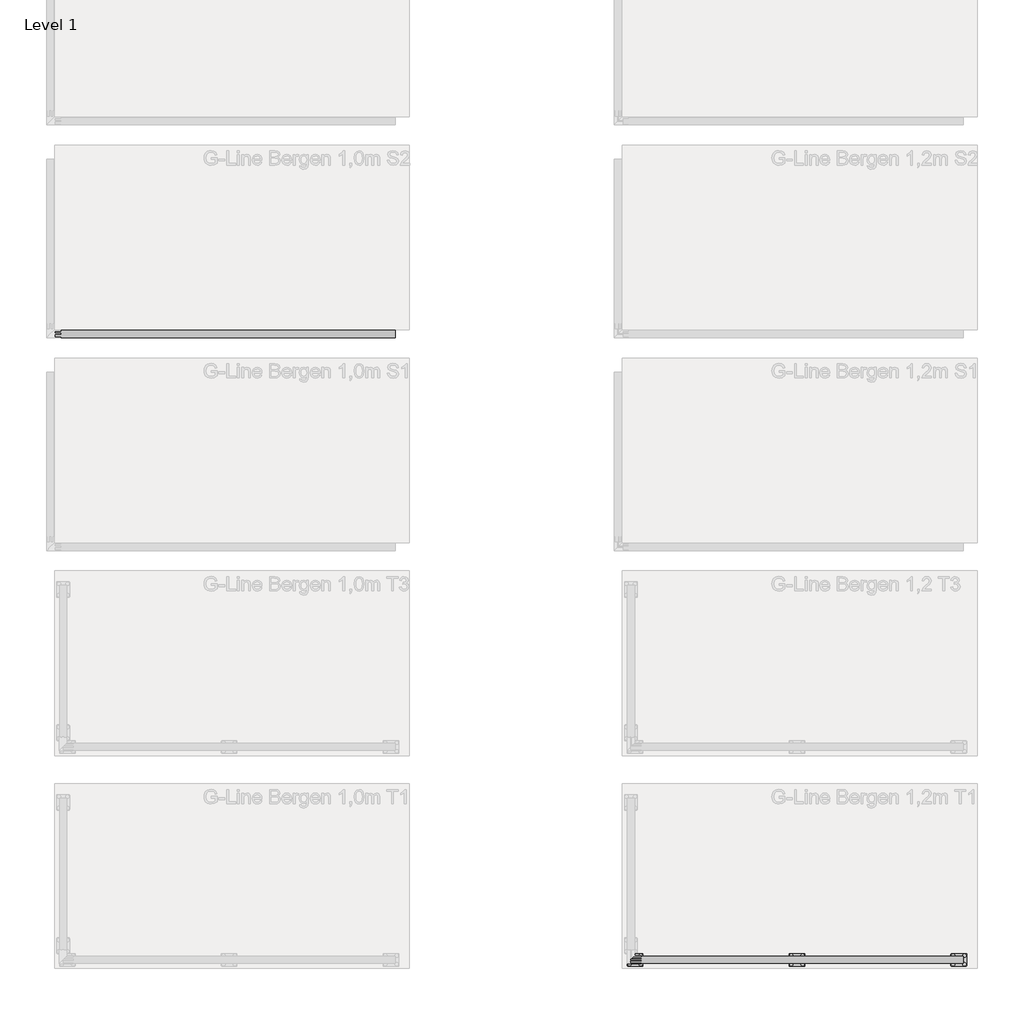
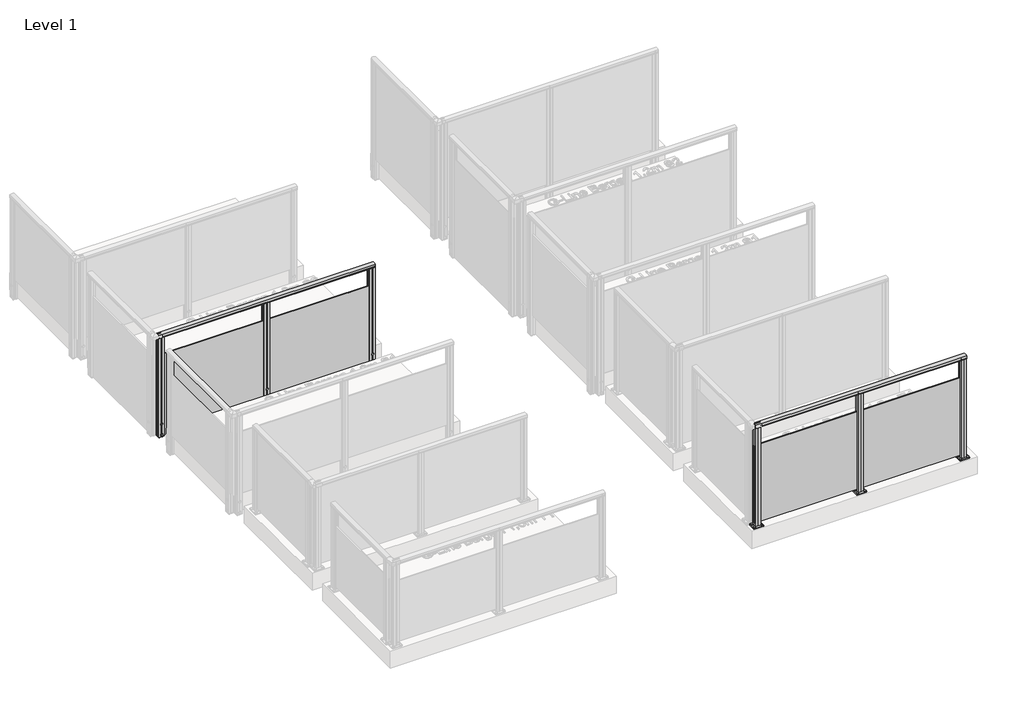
# One storey, part 19 of 66: 2 railings.
"""IFC4 building model written with IfcOpenShell, lengths in millimetres."""

from ifc_helpers import new_model, si_unit, point, frame, frame_2d, origin, origin_with_axes, place, context, project, spatial, polyline, circle_curve, trimmed, segment, composite_curve, outline, extrude, element, save

model = new_model("IFC4")

# Units and contexts
model_context = context("Model", 3, world=origin())
ifc_project = project(units=[si_unit("LENGTHUNIT", "METRE", prefix="MILLI")], contexts=[model_context])

# Site, building, storey
site = spatial("IfcSite", under=ifc_project)
building = spatial("IfcBuilding", under=site)
storey = spatial("IfcBuildingStorey", under=building, Name="Level 1", Elevation=0.0)

# Railings
placement = place(None, origin())
element("IfcRailing", 1, ObjectType="G-Line Bergen 1,0m S2", at=placement, inside=storey, context=model_context, shape_type="SweptSolid", body=[
    extrude(outline(composite_curve([segment(polyline([(13.4211819, 994.1390059), (13.4211819, 967.1990555), (12.8063989, 966.5842725), (13.4211819, 965.9694895), (13.4211819, 957.2498847), (11.6613734, 957.2498847), (11.6613734, 980.4998829), (-35.3336728, 980.4998829), (-35.3336728, 957.2498847), (-37.1386257, 957.2498847), (-37.1386257, 965.8194895), (-36.5165446, 966.4415706), (-37.0984763, 967.0235023), (-37.0984763, 994.1342258)]), True, "CONTINUOUS"), segment(trimmed(circle_curve(frame_2d((-11.8337784, 942.6785502)), 57.3235687), [point((-37.0984763, 994.1342258))], [point((13.4211819, 994.1390059))], False, "CARTESIAN"), True, "CONTINUOUS")], self_intersect=False)), frame((4501.5263105, 0.0, 0.0), z_axis=(1.0, 0.0, 0.0), x_axis=(0.0, 1.0, 0.0)), (0.0, 0.0, 1.0), 2395.0),
    extrude(outline(polyline([(4501.5263105, -12.0140192), (4501.5263105, -10.1503363), (6896.5263105, -10.1503363), (6896.5263105, -12.0140192), (4501.5263105, -12.0140192)])), frame((0.0, 0.0, -200.0), z_axis=(0.0, 0.0, 1.0), x_axis=(1.0, 0.0, 0.0)), (0.0, 0.0, 1.0), 1.1703418),
    extrude(outline(polyline([(4501.5263105, -15.4984021), (4501.5263105, -6.7384021), (6896.5263105, -6.7384021), (6896.5263105, -15.4984021), (4501.5263105, -15.4984021)])), frame((0.0, 0.0, -200.0), z_axis=(0.0, 0.0, 1.0), x_axis=(1.0, 0.0, 0.0)), (0.0, 0.0, 1.0), 945.0),
    extrude(outline(polyline([(5729.0247174, -6.7725401), (5711.5247176, -6.7699629), (5711.5234275, -15.5299628), (5729.0234273, -15.53254), (5729.0207684, -33.5873474), (5699.9037815, -33.5830594), (5699.025618, -32.7046373), (5697.9877501, -33.6229696), (5669.0207632, -33.6187037), (5669.023428, -15.5237039), (5686.5234278, -15.5262811), (5686.5247179, -6.7662812), (5669.0247181, -6.763704), (5669.0273844, 11.3412471), (5698.0438599, 11.3369739), (5699.0319584, 10.3485843), (5700.0604026, 11.3767256), (5729.0273896, 11.3724597), (5729.0247174, -6.7725401)])), frame((0.0, 0.0, -202.0233958), z_axis=(0.0, 0.0, 1.0), x_axis=(1.0, 0.0, 0.0)), (0.0, 0.0, 1.0), 2.0),
    extrude(outline(composite_curve([segment(trimmed(circle_curve(frame_2d((0.0, 12.0000001)), 12.0), [point((0.0, 24.0))], [point((0.0, 0.0))], False, "CARTESIAN"), True, "CONTINUOUS"), segment(trimmed(circle_curve(frame_2d((0.0, 12.0000001)), 12.0), [point((0.0, 0.0))], [point((0.0, 24.0))], False, "CARTESIAN"), True, "CONTINUOUS")], self_intersect=False)), frame((5687.0160336, -36.6536146, -175.0), z_axis=(0.00040291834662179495, 0.9999999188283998, 0.0), x_axis=(0.0, 0.0, 1.0)), (0.0, 0.0, 1.0), 3.0757477),
    extrude(outline(composite_curve([segment(trimmed(circle_curve(frame_2d((0.0, 12.0000001)), 12.0), [point((0.0, 24.0))], [point((0.0, 0.0))], False, "CARTESIAN"), True, "CONTINUOUS"), segment(trimmed(circle_curve(frame_2d((0.0, 12.0000001)), 12.0), [point((0.0, 0.0))], [point((0.0, 24.0))], False, "CARTESIAN"), True, "CONTINUOUS")], self_intersect=False)), frame((5687.0160336, -36.6536146, -50.0), z_axis=(0.00040291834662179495, 0.9999999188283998, 0.0), x_axis=(0.0, 0.0, 1.0)), (0.0, 0.0, 1.0), 3.0757477),
    extrude(outline(polyline([(5729.0247174, -6.7725401), (5711.5247176, -6.7699629), (5711.5234275, -15.5299628), (5729.0234273, -15.53254), (5729.0207684, -33.5873474), (5699.9037815, -33.5830594), (5699.025618, -32.7046373), (5697.9877501, -33.6229696), (5669.0207632, -33.6187037), (5669.023428, -15.5237039), (5686.5234278, -15.5262811), (5686.5247179, -6.7662812), (5669.0247181, -6.763704), (5669.0273844, 11.3412471), (5698.0438599, 11.3369739), (5699.0319584, 10.3485843), (5700.0604026, 11.3767256), (5729.0273896, 11.3724597), (5729.0247174, -6.7725401)]), holes=[polyline([(5690.2270955, -31.6244177), (5707.8210573, -31.6244177), (5707.8210573, 9.3781738), (5690.2270955, 9.3781738), (5690.2270955, -31.6244177)]), polyline([(5671.0270957, -4.7665316), (5688.2250124, -4.7665316), (5688.2250124, 9.3810013), (5671.0270957, 9.3810013), (5671.0270957, -4.7665316)]), polyline([(5671.0231335, -31.6244177), (5688.2210571, -31.6244177), (5688.2210571, -17.5239984), (5671.0231335, -17.5239984), (5671.0231335, -31.6244177)]), polyline([(5709.8270953, -4.7722456), (5727.025012, -4.7722456), (5727.025012, 9.3752873), (5709.8270953, 9.3752873), (5709.8270953, -4.7722456)]), polyline([(5709.823133, -31.6772453), (5727.0210497, -31.6772453), (5727.0210497, -17.5297124), (5709.823133, -17.5297124), (5709.823133, -31.6772453)])]), frame((0.0, 0.0, -200.0), z_axis=(0.0, 0.0, 1.0), x_axis=(1.0, 0.0, 0.0)), (0.0, 0.0, 1.0), 1181.0),
    extrude(outline(polyline([(6896.5247174, -6.7725401), (6879.0247176, -6.7699629), (6879.0234275, -15.5299628), (6896.5234273, -15.53254), (6896.5207684, -33.5873474), (6867.4037815, -33.5830594), (6866.525618, -32.7046373), (6865.4877501, -33.6229696), (6836.5207632, -33.6187037), (6836.523428, -15.5237039), (6854.0234278, -15.5262811), (6854.0247179, -6.7662812), (6836.5247181, -6.763704), (6836.5273844, 11.3412471), (6865.5438599, 11.3369739), (6866.5319584, 10.3485843), (6867.5604026, 11.3767256), (6896.5273896, 11.3724597), (6896.5247174, -6.7725401)])), frame((0.0, 0.0, -202.0233958), z_axis=(0.0, 0.0, 1.0), x_axis=(1.0, 0.0, 0.0)), (0.0, 0.0, 1.0), 2.0),
    extrude(outline(composite_curve([segment(trimmed(circle_curve(frame_2d((0.0, 12.0000001)), 12.0), [point((0.0, 24.0))], [point((0.0, 0.0))], False, "CARTESIAN"), True, "CONTINUOUS"), segment(trimmed(circle_curve(frame_2d((0.0, 12.0000001)), 12.0), [point((0.0, 0.0))], [point((0.0, 24.0))], False, "CARTESIAN"), True, "CONTINUOUS")], self_intersect=False)), frame((6854.5160336, -36.6536146, -175.0), z_axis=(0.00040291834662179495, 0.9999999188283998, 0.0), x_axis=(0.0, 0.0, 1.0)), (0.0, 0.0, 1.0), 3.0757477),
    extrude(outline(composite_curve([segment(trimmed(circle_curve(frame_2d((0.0, 12.0000001)), 12.0), [point((0.0, 24.0))], [point((0.0, 0.0))], False, "CARTESIAN"), True, "CONTINUOUS"), segment(trimmed(circle_curve(frame_2d((0.0, 12.0000001)), 12.0), [point((0.0, 0.0))], [point((0.0, 24.0))], False, "CARTESIAN"), True, "CONTINUOUS")], self_intersect=False)), frame((6854.5160336, -36.6536146, -50.0), z_axis=(0.00040291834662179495, 0.9999999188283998, 0.0), x_axis=(0.0, 0.0, 1.0)), (0.0, 0.0, 1.0), 3.0757477),
    extrude(outline(polyline([(6896.5247174, -6.7725401), (6879.0247176, -6.7699629), (6879.0234275, -15.5299628), (6896.5234273, -15.53254), (6896.5207684, -33.5873474), (6867.4037815, -33.5830594), (6866.525618, -32.7046373), (6865.4877501, -33.6229696), (6836.5207632, -33.6187037), (6836.523428, -15.5237039), (6854.0234278, -15.5262811), (6854.0247179, -6.7662812), (6836.5247181, -6.763704), (6836.5273844, 11.3412471), (6865.5438599, 11.3369739), (6866.5319584, 10.3485843), (6867.5604026, 11.3767256), (6896.5273896, 11.3724597), (6896.5247174, -6.7725401)]), holes=[polyline([(6857.7270955, -31.6244177), (6875.3210573, -31.6244177), (6875.3210573, 9.3781737), (6857.7270955, 9.3781737), (6857.7270955, -31.6244177)]), polyline([(6838.5270957, -4.7665316), (6855.7250124, -4.7665316), (6855.7250124, 9.3810013), (6838.5270957, 9.3810013), (6838.5270957, -4.7665316)]), polyline([(6838.5231335, -31.6244177), (6855.7210571, -31.6244177), (6855.7210571, -17.5239984), (6838.5231335, -17.5239984), (6838.5231335, -31.6244177)]), polyline([(6877.3270953, -4.7722456), (6894.525012, -4.7722456), (6894.525012, 9.3752873), (6877.3270953, 9.3752873), (6877.3270953, -4.7722456)]), polyline([(6877.323133, -31.6772453), (6894.5210497, -31.6772453), (6894.5210497, -17.5297124), (6877.323133, -17.5297124), (6877.323133, -31.6772453)])]), frame((0.0, 0.0, -200.0), z_axis=(0.0, 0.0, 1.0), x_axis=(1.0, 0.0, 0.0)), (0.0, 0.0, 1.0), 1181.0),
    extrude(outline(polyline([(4561.5247174, -6.7725401), (4544.0247176, -6.7699629), (4544.0234275, -15.5299628), (4561.5234273, -15.53254), (4561.5207684, -33.5873474), (4532.4037815, -33.5830594), (4531.525618, -32.7046373), (4530.4877501, -33.6229696), (4501.5207632, -33.6187037), (4501.523428, -15.5237039), (4519.0234278, -15.5262811), (4519.0247179, -6.7662812), (4501.5247181, -6.763704), (4501.5273844, 11.3412471), (4530.5438599, 11.3369739), (4531.5319584, 10.3485843), (4532.5604026, 11.3767256), (4561.5273896, 11.3724597), (4561.5247174, -6.7725401)])), frame((0.0, 0.0, -202.0233958), z_axis=(0.0, 0.0, 1.0), x_axis=(1.0, 0.0, 0.0)), (0.0, 0.0, 1.0), 2.0),
    extrude(outline(composite_curve([segment(trimmed(circle_curve(frame_2d((0.0, 12.0000001)), 12.0), [point((0.0, 24.0))], [point((0.0, 0.0))], False, "CARTESIAN"), True, "CONTINUOUS"), segment(trimmed(circle_curve(frame_2d((0.0, 12.0000001)), 12.0), [point((0.0, 0.0))], [point((0.0, 24.0))], False, "CARTESIAN"), True, "CONTINUOUS")], self_intersect=False)), frame((4519.5160336, -36.6536146, -175.0), z_axis=(0.00040291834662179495, 0.9999999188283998, 0.0), x_axis=(0.0, 0.0, 1.0)), (0.0, 0.0, 1.0), 3.0757477),
    extrude(outline(composite_curve([segment(trimmed(circle_curve(frame_2d((0.0, 12.0000001)), 12.0), [point((0.0, 24.0))], [point((0.0, 0.0))], False, "CARTESIAN"), True, "CONTINUOUS"), segment(trimmed(circle_curve(frame_2d((0.0, 12.0000001)), 12.0), [point((0.0, 0.0))], [point((0.0, 24.0))], False, "CARTESIAN"), True, "CONTINUOUS")], self_intersect=False)), frame((4519.5160336, -36.6536146, -50.0), z_axis=(0.00040291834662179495, 0.9999999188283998, 0.0), x_axis=(0.0, 0.0, 1.0)), (0.0, 0.0, 1.0), 3.0757477),
    extrude(outline(polyline([(4561.5247174, -6.7725401), (4544.0247176, -6.7699629), (4544.0234275, -15.5299628), (4561.5234273, -15.53254), (4561.5207684, -33.5873474), (4532.4037815, -33.5830594), (4531.525618, -32.7046373), (4530.4877501, -33.6229696), (4501.5207632, -33.6187037), (4501.523428, -15.5237039), (4519.0234278, -15.5262811), (4519.0247179, -6.7662812), (4501.5247181, -6.763704), (4501.5273844, 11.3412471), (4530.5438599, 11.3369739), (4531.5319584, 10.3485843), (4532.5604026, 11.3767256), (4561.5273896, 11.3724597), (4561.5247174, -6.7725401)]), holes=[polyline([(4522.7270955, -31.6244177), (4540.3210573, -31.6244177), (4540.3210573, 9.3781738), (4522.7270955, 9.3781738), (4522.7270955, -31.6244177)]), polyline([(4503.5270957, -4.7665316), (4520.7250124, -4.7665316), (4520.7250124, 9.3810013), (4503.5270957, 9.3810013), (4503.5270957, -4.7665316)]), polyline([(4503.5231335, -31.6244177), (4520.7210571, -31.6244177), (4520.7210571, -17.5239984), (4503.5231335, -17.5239984), (4503.5231335, -31.6244177)]), polyline([(4542.3270953, -4.7722456), (4559.525012, -4.7722456), (4559.525012, 9.3752873), (4542.3270953, 9.3752873), (4542.3270953, -4.7722456)]), polyline([(4542.323133, -31.6772453), (4559.5210497, -31.6772453), (4559.5210497, -17.5297124), (4542.323133, -17.5297124), (4542.323133, -31.6772453)])]), frame((0.0, 0.0, -200.0), z_axis=(0.0, 0.0, 1.0), x_axis=(1.0, 0.0, 0.0)), (0.0, 0.0, 1.0), 1181.0),
])
element("IfcRailing", 2, ObjectType="G-Line Bergen 1,2m T1", at=placement, inside=storey, context=model_context, shape_type="SweptSolid", body=[
    extrude(outline(composite_curve([segment(polyline([(-4395.1386257, 1194.1390059), (-4395.1386257, 1167.1990555), (-4395.7534087, 1166.5842725), (-4395.1386257, 1165.9694895), (-4395.1386257, 1157.2498847), (-4396.8984343, 1157.2498847), (-4396.8984343, 1180.4998829), (-4443.8934804, 1180.4998829), (-4443.8934804, 1157.2498847), (-4445.6984333, 1157.2498847), (-4445.6984333, 1165.8194895), (-4445.0763522, 1166.4415706), (-4445.658284, 1167.0235023), (-4445.658284, 1194.1342258)]), True, "CONTINUOUS"), segment(trimmed(circle_curve(frame_2d((-4420.393586, 1142.6785502)), 57.3235687), [point((-4445.658284, 1194.1342258))], [point((-4395.1386257, 1194.1390059))], False, "CARTESIAN"), True, "CONTINUOUS")], self_intersect=False)), frame((8556.5263105, 0.0, 0.0), z_axis=(1.0, 0.0, 0.0), x_axis=(0.0, 1.0, 0.0)), (0.0, 0.0, 1.0), 2340.0),
    extrude(outline(polyline([(8556.5263105, -4425.4984021), (8556.5263105, -4416.7384021), (10896.5263105, -4416.7384021), (10896.5263105, -4425.4984021), (8556.5263105, -4425.4984021)])), frame((0.0, 0.0, 40.0), z_axis=(0.0, 0.0, 1.0), x_axis=(1.0, 0.0, 0.0)), (0.0, 0.0, 1.0), 910.0),
    extrude(outline(composite_curve([segment(trimmed(circle_curve(frame_2d((9686.5263105, -4451.1184021)), 11.9621755), [point((9686.5263105, -4463.0805775))], [point((9686.5263105, -4439.1562266))], False, "CARTESIAN"), True, "CONTINUOUS"), segment(trimmed(circle_curve(frame_2d((9686.5263105, -4451.1184021)), 11.9621755), [point((9686.5263105, -4439.1562266))], [point((9686.5263105, -4463.0805775))], False, "CARTESIAN"), True, "CONTINUOUS")], self_intersect=False)), frame((0.0, 0.0, 10.0), z_axis=(0.0, 0.0, 1.0), x_axis=(1.0, 0.0, 0.0)), (0.0, 0.0, 1.0), 5.0),
    extrude(outline(composite_curve([segment(trimmed(circle_curve(frame_2d((9686.5263105, -4391.1184021)), 11.9621755), [point((9686.5263105, -4403.0805775))], [point((9686.5263105, -4379.1562266))], False, "CARTESIAN"), True, "CONTINUOUS"), segment(trimmed(circle_curve(frame_2d((9686.5263105, -4391.1184021)), 11.9621755), [point((9686.5263105, -4379.1562266))], [point((9686.5263105, -4403.0805775))], False, "CARTESIAN"), True, "CONTINUOUS")], self_intersect=False)), frame((0.0, 0.0, 10.0), z_axis=(0.0, 0.0, 1.0), x_axis=(1.0, 0.0, 0.0)), (0.0, 0.0, 1.0), 5.0),
    extrude(outline(composite_curve([segment(trimmed(circle_curve(frame_2d((9766.5263105, -4451.1184021)), 11.9621755), [point((9766.5263105, -4463.0805775))], [point((9766.5263105, -4439.1562266))], False, "CARTESIAN"), True, "CONTINUOUS"), segment(trimmed(circle_curve(frame_2d((9766.5263105, -4451.1184021)), 11.9621755), [point((9766.5263105, -4439.1562266))], [point((9766.5263105, -4463.0805775))], False, "CARTESIAN"), True, "CONTINUOUS")], self_intersect=False)), frame((0.0, 0.0, 10.0), z_axis=(0.0, 0.0, 1.0), x_axis=(1.0, 0.0, 0.0)), (0.0, 0.0, 1.0), 5.0),
    extrude(outline(composite_curve([segment(trimmed(circle_curve(frame_2d((9766.5263105, -4391.1184021)), 11.9621755), [point((9766.5263105, -4403.0805775))], [point((9766.5263105, -4379.1562266))], False, "CARTESIAN"), True, "CONTINUOUS"), segment(trimmed(circle_curve(frame_2d((9766.5263105, -4391.1184021)), 11.9621755), [point((9766.5263105, -4379.1562266))], [point((9766.5263105, -4403.0805775))], False, "CARTESIAN"), True, "CONTINUOUS")], self_intersect=False)), frame((0.0, 0.0, 10.0), z_axis=(0.0, 0.0, 1.0), x_axis=(1.0, 0.0, 0.0)), (0.0, 0.0, 1.0), 5.0),
    extrude(outline(composite_curve([segment(trimmed(circle_curve(frame_2d((9676.5263105, -4381.1184021)), 5.0), [point((9671.5263105, -4381.1184021))], [point((9676.5263105, -4376.1184021))], False, "CARTESIAN"), True, "CONTINUOUS"), segment(polyline([(9676.5263105, -4376.1184021), (9776.5263105, -4376.1184021)]), True, "CONTINUOUS"), segment(trimmed(circle_curve(frame_2d((9776.5263105, -4381.1184021)), 5.0), [point((9776.5263105, -4376.1184021))], [point((9781.5263105, -4381.1184021))], False, "CARTESIAN"), True, "CONTINUOUS"), segment(polyline([(9781.5263105, -4381.1184021), (9781.5263105, -4461.1184021)]), True, "CONTINUOUS"), segment(trimmed(circle_curve(frame_2d((9776.5263105, -4461.1184021)), 5.0), [point((9781.5263105, -4461.1184021))], [point((9776.5263105, -4466.1184021))], False, "CARTESIAN"), True, "CONTINUOUS"), segment(polyline([(9776.5263105, -4466.1184021), (9676.5263105, -4466.1184021)]), True, "CONTINUOUS"), segment(trimmed(circle_curve(frame_2d((9676.5263105, -4461.1184021)), 5.0), [point((9676.5263105, -4466.1184021))], [point((9671.5263105, -4461.1184021))], False, "CARTESIAN"), True, "CONTINUOUS"), segment(polyline([(9671.5263105, -4461.1184021), (9671.5263105, -4381.1184021)]), True, "CONTINUOUS")], self_intersect=False), holes=[composite_curve([segment(trimmed(circle_curve(frame_2d((9686.5263105, -4391.1184021)), 6.25), [point((9686.5263105, -4397.3684021))], [point((9686.5263105, -4384.8684021))], True, "CARTESIAN"), True, "CONTINUOUS"), segment(trimmed(circle_curve(frame_2d((9686.5263105, -4391.1184021)), 6.25), [point((9686.5263105, -4384.8684021))], [point((9686.5263105, -4397.3684021))], True, "CARTESIAN"), True, "CONTINUOUS")], self_intersect=False), composite_curve([segment(trimmed(circle_curve(frame_2d((9686.5263105, -4451.1184021)), 6.25), [point((9686.5263105, -4457.3684021))], [point((9686.5263105, -4444.8684021))], True, "CARTESIAN"), True, "CONTINUOUS"), segment(trimmed(circle_curve(frame_2d((9686.5263105, -4451.1184021)), 6.25), [point((9686.5263105, -4444.8684021))], [point((9686.5263105, -4457.3684021))], True, "CARTESIAN"), True, "CONTINUOUS")], self_intersect=False), composite_curve([segment(trimmed(circle_curve(frame_2d((9766.5263105, -4451.1184021)), 6.25), [point((9766.5263105, -4457.3684021))], [point((9766.5263105, -4444.8684021))], True, "CARTESIAN"), True, "CONTINUOUS"), segment(trimmed(circle_curve(frame_2d((9766.5263105, -4451.1184021)), 6.25), [point((9766.5263105, -4444.8684021))], [point((9766.5263105, -4457.3684021))], True, "CARTESIAN"), True, "CONTINUOUS")], self_intersect=False), composite_curve([segment(trimmed(circle_curve(frame_2d((9766.5263105, -4391.1184021)), 6.25), [point((9766.5263105, -4397.3684021))], [point((9766.5263105, -4384.8684021))], True, "CARTESIAN"), True, "CONTINUOUS"), segment(trimmed(circle_curve(frame_2d((9766.5263105, -4391.1184021)), 6.25), [point((9766.5263105, -4384.8684021))], [point((9766.5263105, -4397.3684021))], True, "CARTESIAN"), True, "CONTINUOUS")], self_intersect=False)]), origin_with_axes(), (0.0, 0.0, 1.0), 10.0),
    extrude(outline(polyline([(9756.5247174, -4425.464264), (9756.5273896, -4443.6092639), (9727.5604026, -4443.6135298), (9726.5319584, -4442.5853885), (9725.5438599, -4443.5737781), (9696.5273844, -4443.5780513), (9696.5247181, -4425.4731002), (9714.0247179, -4425.470523), (9714.0234278, -4416.7105231), (9696.523428, -4416.7131003), (9696.5207632, -4398.6181005), (9725.4877501, -4398.6138345), (9726.525618, -4399.5321669), (9727.4037815, -4398.6537448), (9756.5207684, -4398.6494567), (9756.5234273, -4416.7042641), (9739.0234275, -4416.7068414), (9739.0247176, -4425.4668413), (9756.5247174, -4425.464264)]), holes=[polyline([(9717.7270955, -4400.6123864), (9717.7270955, -4441.6149779), (9735.3210573, -4441.6149779), (9735.3210573, -4400.6123864), (9717.7270955, -4400.6123864)]), polyline([(9698.5270957, -4427.4702726), (9698.5270957, -4441.6178055), (9715.7250124, -4441.6178055), (9715.7250124, -4427.4702726), (9698.5270957, -4427.4702726)]), polyline([(9698.5231335, -4400.6123864), (9698.5231335, -4414.7128058), (9715.7210571, -4414.7128058), (9715.7210571, -4400.6123864), (9698.5231335, -4400.6123864)]), polyline([(9737.3270953, -4427.4645586), (9737.3270953, -4441.6120914), (9754.525012, -4441.6120914), (9754.525012, -4427.4645586), (9737.3270953, -4427.4645586)]), polyline([(9737.323133, -4400.5595589), (9737.323133, -4414.7070917), (9754.5210497, -4414.7070917), (9754.5210497, -4400.5595589), (9737.323133, -4400.5595589)])]), frame((0.0, 0.0, 10.0), z_axis=(0.0, 0.0, 1.0), x_axis=(1.0, 0.0, 0.0)), (0.0, 0.0, 1.0), 1171.0),
    extrude(outline(composite_curve([segment(trimmed(circle_curve(frame_2d((10826.5263105, -4451.1184021)), 11.9621755), [point((10826.5263105, -4463.0805775))], [point((10826.5263105, -4439.1562266))], False, "CARTESIAN"), True, "CONTINUOUS"), segment(trimmed(circle_curve(frame_2d((10826.5263105, -4451.1184021)), 11.9621755), [point((10826.5263105, -4439.1562266))], [point((10826.5263105, -4463.0805775))], False, "CARTESIAN"), True, "CONTINUOUS")], self_intersect=False)), frame((0.0, 0.0, 10.0), z_axis=(0.0, 0.0, 1.0), x_axis=(1.0, 0.0, 0.0)), (0.0, 0.0, 1.0), 5.0),
    extrude(outline(composite_curve([segment(trimmed(circle_curve(frame_2d((10826.5263105, -4391.1184021)), 11.9621755), [point((10826.5263105, -4403.0805775))], [point((10826.5263105, -4379.1562266))], False, "CARTESIAN"), True, "CONTINUOUS"), segment(trimmed(circle_curve(frame_2d((10826.5263105, -4391.1184021)), 11.9621755), [point((10826.5263105, -4379.1562266))], [point((10826.5263105, -4403.0805775))], False, "CARTESIAN"), True, "CONTINUOUS")], self_intersect=False)), frame((0.0, 0.0, 10.0), z_axis=(0.0, 0.0, 1.0), x_axis=(1.0, 0.0, 0.0)), (0.0, 0.0, 1.0), 5.0),
    extrude(outline(composite_curve([segment(trimmed(circle_curve(frame_2d((10906.5263105, -4451.1184021)), 11.9621755), [point((10906.5263105, -4463.0805775))], [point((10906.5263105, -4439.1562266))], False, "CARTESIAN"), True, "CONTINUOUS"), segment(trimmed(circle_curve(frame_2d((10906.5263105, -4451.1184021)), 11.9621755), [point((10906.5263105, -4439.1562266))], [point((10906.5263105, -4463.0805775))], False, "CARTESIAN"), True, "CONTINUOUS")], self_intersect=False)), frame((0.0, 0.0, 10.0), z_axis=(0.0, 0.0, 1.0), x_axis=(1.0, 0.0, 0.0)), (0.0, 0.0, 1.0), 5.0),
    extrude(outline(composite_curve([segment(trimmed(circle_curve(frame_2d((10906.5263105, -4391.1184021)), 11.9621755), [point((10906.5263105, -4403.0805775))], [point((10906.5263105, -4379.1562266))], False, "CARTESIAN"), True, "CONTINUOUS"), segment(trimmed(circle_curve(frame_2d((10906.5263105, -4391.1184021)), 11.9621755), [point((10906.5263105, -4379.1562266))], [point((10906.5263105, -4403.0805775))], False, "CARTESIAN"), True, "CONTINUOUS")], self_intersect=False)), frame((0.0, 0.0, 10.0), z_axis=(0.0, 0.0, 1.0), x_axis=(1.0, 0.0, 0.0)), (0.0, 0.0, 1.0), 5.0),
    extrude(outline(composite_curve([segment(trimmed(circle_curve(frame_2d((10816.5263105, -4381.1184021)), 5.0), [point((10811.5263105, -4381.1184021))], [point((10816.5263105, -4376.1184021))], False, "CARTESIAN"), True, "CONTINUOUS"), segment(polyline([(10816.5263105, -4376.1184021), (10916.5263105, -4376.1184021)]), True, "CONTINUOUS"), segment(trimmed(circle_curve(frame_2d((10916.5263105, -4381.1184021)), 5.0), [point((10916.5263105, -4376.1184021))], [point((10921.5263105, -4381.1184021))], False, "CARTESIAN"), True, "CONTINUOUS"), segment(polyline([(10921.5263105, -4381.1184021), (10921.5263105, -4461.1184021)]), True, "CONTINUOUS"), segment(trimmed(circle_curve(frame_2d((10916.5263105, -4461.1184021)), 5.0), [point((10921.5263105, -4461.1184021))], [point((10916.5263105, -4466.1184021))], False, "CARTESIAN"), True, "CONTINUOUS"), segment(polyline([(10916.5263105, -4466.1184021), (10816.5263105, -4466.1184021)]), True, "CONTINUOUS"), segment(trimmed(circle_curve(frame_2d((10816.5263105, -4461.1184021)), 5.0), [point((10816.5263105, -4466.1184021))], [point((10811.5263105, -4461.1184021))], False, "CARTESIAN"), True, "CONTINUOUS"), segment(polyline([(10811.5263105, -4461.1184021), (10811.5263105, -4381.1184021)]), True, "CONTINUOUS")], self_intersect=False), holes=[composite_curve([segment(trimmed(circle_curve(frame_2d((10826.5263105, -4391.1184021)), 6.25), [point((10826.5263105, -4397.3684021))], [point((10826.5263105, -4384.8684021))], True, "CARTESIAN"), True, "CONTINUOUS"), segment(trimmed(circle_curve(frame_2d((10826.5263105, -4391.1184021)), 6.25), [point((10826.5263105, -4384.8684021))], [point((10826.5263105, -4397.3684021))], True, "CARTESIAN"), True, "CONTINUOUS")], self_intersect=False), composite_curve([segment(trimmed(circle_curve(frame_2d((10826.5263105, -4451.1184021)), 6.25), [point((10826.5263105, -4457.3684021))], [point((10826.5263105, -4444.8684021))], True, "CARTESIAN"), True, "CONTINUOUS"), segment(trimmed(circle_curve(frame_2d((10826.5263105, -4451.1184021)), 6.25), [point((10826.5263105, -4444.8684021))], [point((10826.5263105, -4457.3684021))], True, "CARTESIAN"), True, "CONTINUOUS")], self_intersect=False), composite_curve([segment(trimmed(circle_curve(frame_2d((10906.5263105, -4451.1184021)), 6.25), [point((10906.5263105, -4457.3684021))], [point((10906.5263105, -4444.8684021))], True, "CARTESIAN"), True, "CONTINUOUS"), segment(trimmed(circle_curve(frame_2d((10906.5263105, -4451.1184021)), 6.25), [point((10906.5263105, -4444.8684021))], [point((10906.5263105, -4457.3684021))], True, "CARTESIAN"), True, "CONTINUOUS")], self_intersect=False), composite_curve([segment(trimmed(circle_curve(frame_2d((10906.5263105, -4391.1184021)), 6.25), [point((10906.5263105, -4397.3684021))], [point((10906.5263105, -4384.8684021))], True, "CARTESIAN"), True, "CONTINUOUS"), segment(trimmed(circle_curve(frame_2d((10906.5263105, -4391.1184021)), 6.25), [point((10906.5263105, -4384.8684021))], [point((10906.5263105, -4397.3684021))], True, "CARTESIAN"), True, "CONTINUOUS")], self_intersect=False)]), origin_with_axes(), (0.0, 0.0, 1.0), 10.0),
    extrude(outline(polyline([(10896.5247174, -4425.4642641), (10896.5273896, -4443.6092639), (10867.5604026, -4443.6135298), (10866.5319584, -4442.5853885), (10865.5438599, -4443.5737781), (10836.5273844, -4443.5780513), (10836.5247181, -4425.4731002), (10854.0247179, -4425.470523), (10854.0234278, -4416.7105231), (10836.523428, -4416.7131003), (10836.5207632, -4398.6181005), (10865.4877501, -4398.6138345), (10866.525618, -4399.5321669), (10867.4037815, -4398.6537448), (10896.5207684, -4398.6494567), (10896.5234273, -4416.7042641), (10879.0234275, -4416.7068414), (10879.0247176, -4425.4668413), (10896.5247174, -4425.4642641)]), holes=[polyline([(10857.7270955, -4400.6123864), (10857.7270955, -4441.6149779), (10875.3210573, -4441.6149779), (10875.3210573, -4400.6123864), (10857.7270955, -4400.6123864)]), polyline([(10838.5270957, -4427.4702726), (10838.5270957, -4441.6178055), (10855.7250124, -4441.6178055), (10855.7250124, -4427.4702726), (10838.5270957, -4427.4702726)]), polyline([(10838.5231335, -4400.6123864), (10838.5231335, -4414.7128058), (10855.7210571, -4414.7128058), (10855.7210571, -4400.6123864), (10838.5231335, -4400.6123864)]), polyline([(10877.3270953, -4427.4645586), (10877.3270953, -4441.6120914), (10894.525012, -4441.6120914), (10894.525012, -4427.4645586), (10877.3270953, -4427.4645586)]), polyline([(10877.323133, -4400.5595589), (10877.323133, -4414.7070917), (10894.5210497, -4414.7070917), (10894.5210497, -4400.5595589), (10877.323133, -4400.5595589)])]), frame((0.0, 0.0, 10.0), z_axis=(0.0, 0.0, 1.0), x_axis=(1.0, 0.0, 0.0)), (0.0, 0.0, 1.0), 1171.0),
    extrude(outline(composite_curve([segment(trimmed(circle_curve(frame_2d((8546.5263105, -4451.1184021)), 11.9621755), [point((8546.5263105, -4463.0805775))], [point((8546.5263105, -4439.1562266))], False, "CARTESIAN"), True, "CONTINUOUS"), segment(trimmed(circle_curve(frame_2d((8546.5263105, -4451.1184021)), 11.9621755), [point((8546.5263105, -4439.1562266))], [point((8546.5263105, -4463.0805775))], False, "CARTESIAN"), True, "CONTINUOUS")], self_intersect=False)), frame((0.0, 0.0, 10.0), z_axis=(0.0, 0.0, 1.0), x_axis=(1.0, 0.0, 0.0)), (0.0, 0.0, 1.0), 5.0),
    extrude(outline(composite_curve([segment(trimmed(circle_curve(frame_2d((8546.5263105, -4391.1184021)), 11.9621755), [point((8546.5263105, -4403.0805775))], [point((8546.5263105, -4379.1562266))], False, "CARTESIAN"), True, "CONTINUOUS"), segment(trimmed(circle_curve(frame_2d((8546.5263105, -4391.1184021)), 11.9621755), [point((8546.5263105, -4379.1562266))], [point((8546.5263105, -4403.0805775))], False, "CARTESIAN"), True, "CONTINUOUS")], self_intersect=False)), frame((0.0, 0.0, 10.0), z_axis=(0.0, 0.0, 1.0), x_axis=(1.0, 0.0, 0.0)), (0.0, 0.0, 1.0), 5.0),
    extrude(outline(composite_curve([segment(trimmed(circle_curve(frame_2d((8626.5263105, -4451.1184021)), 11.9621755), [point((8626.5263105, -4463.0805775))], [point((8626.5263105, -4439.1562266))], False, "CARTESIAN"), True, "CONTINUOUS"), segment(trimmed(circle_curve(frame_2d((8626.5263105, -4451.1184021)), 11.9621755), [point((8626.5263105, -4439.1562266))], [point((8626.5263105, -4463.0805775))], False, "CARTESIAN"), True, "CONTINUOUS")], self_intersect=False)), frame((0.0, 0.0, 10.0), z_axis=(0.0, 0.0, 1.0), x_axis=(1.0, 0.0, 0.0)), (0.0, 0.0, 1.0), 5.0),
    extrude(outline(composite_curve([segment(trimmed(circle_curve(frame_2d((8626.5263105, -4391.1184021)), 11.9621755), [point((8626.5263105, -4403.0805775))], [point((8626.5263105, -4379.1562266))], False, "CARTESIAN"), True, "CONTINUOUS"), segment(trimmed(circle_curve(frame_2d((8626.5263105, -4391.1184021)), 11.9621755), [point((8626.5263105, -4379.1562266))], [point((8626.5263105, -4403.0805775))], False, "CARTESIAN"), True, "CONTINUOUS")], self_intersect=False)), frame((0.0, 0.0, 10.0), z_axis=(0.0, 0.0, 1.0), x_axis=(1.0, 0.0, 0.0)), (0.0, 0.0, 1.0), 5.0),
    extrude(outline(composite_curve([segment(trimmed(circle_curve(frame_2d((8536.5263105, -4381.1184021)), 5.0), [point((8531.5263105, -4381.1184021))], [point((8536.5263105, -4376.1184021))], False, "CARTESIAN"), True, "CONTINUOUS"), segment(polyline([(8536.5263105, -4376.1184021), (8636.5263105, -4376.1184021)]), True, "CONTINUOUS"), segment(trimmed(circle_curve(frame_2d((8636.5263105, -4381.1184021)), 5.0), [point((8636.5263105, -4376.1184021))], [point((8641.5263105, -4381.1184021))], False, "CARTESIAN"), True, "CONTINUOUS"), segment(polyline([(8641.5263105, -4381.1184021), (8641.5263105, -4461.1184021)]), True, "CONTINUOUS"), segment(trimmed(circle_curve(frame_2d((8636.5263105, -4461.1184021)), 5.0), [point((8641.5263105, -4461.1184021))], [point((8636.5263105, -4466.1184021))], False, "CARTESIAN"), True, "CONTINUOUS"), segment(polyline([(8636.5263105, -4466.1184021), (8536.5263105, -4466.1184021)]), True, "CONTINUOUS"), segment(trimmed(circle_curve(frame_2d((8536.5263105, -4461.1184021)), 5.0), [point((8536.5263105, -4466.1184021))], [point((8531.5263105, -4461.1184021))], False, "CARTESIAN"), True, "CONTINUOUS"), segment(polyline([(8531.5263105, -4461.1184021), (8531.5263105, -4381.1184021)]), True, "CONTINUOUS")], self_intersect=False), holes=[composite_curve([segment(trimmed(circle_curve(frame_2d((8546.5263105, -4391.1184021)), 6.25), [point((8546.5263105, -4397.3684021))], [point((8546.5263105, -4384.8684021))], True, "CARTESIAN"), True, "CONTINUOUS"), segment(trimmed(circle_curve(frame_2d((8546.5263105, -4391.1184021)), 6.25), [point((8546.5263105, -4384.8684021))], [point((8546.5263105, -4397.3684021))], True, "CARTESIAN"), True, "CONTINUOUS")], self_intersect=False), composite_curve([segment(trimmed(circle_curve(frame_2d((8546.5263105, -4451.1184021)), 6.25), [point((8546.5263105, -4457.3684021))], [point((8546.5263105, -4444.8684021))], True, "CARTESIAN"), True, "CONTINUOUS"), segment(trimmed(circle_curve(frame_2d((8546.5263105, -4451.1184021)), 6.25), [point((8546.5263105, -4444.8684021))], [point((8546.5263105, -4457.3684021))], True, "CARTESIAN"), True, "CONTINUOUS")], self_intersect=False), composite_curve([segment(trimmed(circle_curve(frame_2d((8626.5263105, -4451.1184021)), 6.25), [point((8626.5263105, -4457.3684021))], [point((8626.5263105, -4444.8684021))], True, "CARTESIAN"), True, "CONTINUOUS"), segment(trimmed(circle_curve(frame_2d((8626.5263105, -4451.1184021)), 6.25), [point((8626.5263105, -4444.8684021))], [point((8626.5263105, -4457.3684021))], True, "CARTESIAN"), True, "CONTINUOUS")], self_intersect=False), composite_curve([segment(trimmed(circle_curve(frame_2d((8626.5263105, -4391.1184021)), 6.25), [point((8626.5263105, -4397.3684021))], [point((8626.5263105, -4384.8684021))], True, "CARTESIAN"), True, "CONTINUOUS"), segment(trimmed(circle_curve(frame_2d((8626.5263105, -4391.1184021)), 6.25), [point((8626.5263105, -4384.8684021))], [point((8626.5263105, -4397.3684021))], True, "CARTESIAN"), True, "CONTINUOUS")], self_intersect=False)]), origin_with_axes(), (0.0, 0.0, 1.0), 10.0),
    extrude(outline(polyline([(8616.5247174, -4425.464264), (8616.5273896, -4443.6092639), (8587.5604026, -4443.6135298), (8586.5319584, -4442.5853885), (8585.5438599, -4443.5737781), (8556.5273844, -4443.5780513), (8556.5247181, -4425.4731002), (8574.0247179, -4425.470523), (8574.0234278, -4416.7105231), (8556.523428, -4416.7131003), (8556.5207632, -4398.6181005), (8585.4877501, -4398.6138345), (8586.525618, -4399.5321669), (8587.4037815, -4398.6537448), (8616.5207684, -4398.6494567), (8616.5234273, -4416.7042641), (8599.0234275, -4416.7068413), (8599.0247176, -4425.4668413), (8616.5247174, -4425.464264)]), holes=[polyline([(8577.7270955, -4400.6123864), (8577.7270955, -4441.6149779), (8595.3210573, -4441.6149779), (8595.3210573, -4400.6123864), (8577.7270955, -4400.6123864)]), polyline([(8558.5270957, -4427.4702726), (8558.5270957, -4441.6178055), (8575.7250124, -4441.6178055), (8575.7250124, -4427.4702726), (8558.5270957, -4427.4702726)]), polyline([(8558.5231335, -4400.6123864), (8558.5231335, -4414.7128058), (8575.7210571, -4414.7128058), (8575.7210571, -4400.6123864), (8558.5231335, -4400.6123864)]), polyline([(8597.3270953, -4427.4645586), (8597.3270953, -4441.6120914), (8614.525012, -4441.6120914), (8614.525012, -4427.4645586), (8597.3270953, -4427.4645586)]), polyline([(8597.323133, -4400.5595589), (8597.323133, -4414.7070917), (8614.5210497, -4414.7070917), (8614.5210497, -4400.5595589), (8597.323133, -4400.5595589)])]), frame((0.0, 0.0, 10.0), z_axis=(0.0, 0.0, 1.0), x_axis=(1.0, 0.0, 0.0)), (0.0, 0.0, 1.0), 1171.0),
])

save(model, "model.ifc")
